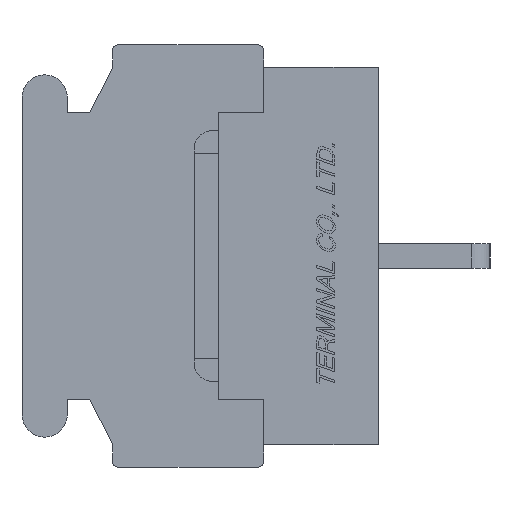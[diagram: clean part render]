
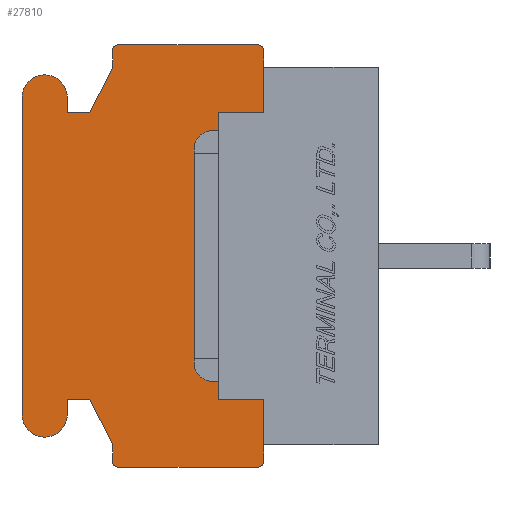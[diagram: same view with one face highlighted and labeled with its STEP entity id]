
A CAD part, left-side view. The second image highlights one B-rep face of the part: STEP entity #27810.
In plain terms, the highlighted planar face has unit normal (-1, 0, 0).
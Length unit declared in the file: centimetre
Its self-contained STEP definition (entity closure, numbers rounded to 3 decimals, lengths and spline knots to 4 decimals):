
#1024=PLANE('',#45333);
#2397=VECTOR('',#30034,1.);
#2792=VECTOR('',#30562,1.);
#2795=VECTOR('',#30566,1.);
#2797=VECTOR('',#30569,1.);
#2798=VECTOR('',#30571,1.);
#2799=VECTOR('',#30573,1.);
#2800=VECTOR('',#30576,1.);
#2801=VECTOR('',#30579,1.);
#2802=VECTOR('',#30580,1.);
#2803=VECTOR('',#30581,1.);
#2804=VECTOR('',#30582,1.);
#2805=VECTOR('',#30585,1.);
#2806=VECTOR('',#30588,1.);
#2807=VECTOR('',#30589,1.);
#2808=VECTOR('',#30590,1.);
#2809=VECTOR('',#30591,1.);
#2810=VECTOR('',#30594,1.);
#2811=VECTOR('',#30597,1.);
#5469=LINE('',#37160,#2397);
#5864=LINE('',#38645,#2792);
#5867=LINE('',#38651,#2795);
#5869=LINE('',#38655,#2797);
#5870=LINE('',#38657,#2798);
#5871=LINE('',#38659,#2799);
#5872=LINE('',#38663,#2800);
#5873=LINE('',#38667,#2801);
#5874=LINE('',#38669,#2802);
#5875=LINE('',#38671,#2803);
#5876=LINE('',#38673,#2804);
#5877=LINE('',#38677,#2805);
#5878=LINE('',#38681,#2806);
#5879=LINE('',#38683,#2807);
#5880=LINE('',#38685,#2808);
#5881=LINE('',#38687,#2809);
#5882=LINE('',#38691,#2810);
#5883=LINE('',#38695,#2811);
#8480=VERTEX_POINT('',#37159);
#8481=VERTEX_POINT('',#37161);
#8815=VERTEX_POINT('',#38644);
#8816=VERTEX_POINT('',#38646);
#8817=VERTEX_POINT('',#38650);
#8818=VERTEX_POINT('',#38652);
#8819=VERTEX_POINT('',#38660);
#8820=VERTEX_POINT('',#38662);
#8821=VERTEX_POINT('',#38664);
#8822=VERTEX_POINT('',#38666);
#8823=VERTEX_POINT('',#38668);
#8824=VERTEX_POINT('',#38670);
#8825=VERTEX_POINT('',#38672);
#8826=VERTEX_POINT('',#38674);
#8827=VERTEX_POINT('',#38676);
#8828=VERTEX_POINT('',#38678);
#8829=VERTEX_POINT('',#38680);
#8830=VERTEX_POINT('',#38682);
#8831=VERTEX_POINT('',#38684);
#8832=VERTEX_POINT('',#38686);
#8833=VERTEX_POINT('',#38688);
#8834=VERTEX_POINT('',#38690);
#8835=VERTEX_POINT('',#38692);
#8836=VERTEX_POINT('',#38694);
#10783=CIRCLE('',#45334,0.02);
#10784=CIRCLE('',#45335,0.02);
#10785=CIRCLE('',#45336,0.075);
#10786=CIRCLE('',#45337,0.075);
#10787=CIRCLE('',#45338,0.02);
#10788=CIRCLE('',#45339,0.02);
#12110=EDGE_CURVE('',#8481,#8480,#5469,.T.);
#12611=EDGE_CURVE('',#8816,#8815,#5864,.T.);
#12614=EDGE_CURVE('',#8818,#8817,#5867,.T.);
#12616=EDGE_CURVE('',#8817,#8481,#5869,.T.);
#12617=EDGE_CURVE('',#8480,#8816,#5870,.T.);
#12618=EDGE_CURVE('',#8819,#8815,#5871,.T.);
#12619=EDGE_CURVE('',#8820,#8819,#10783,.T.);
#12620=EDGE_CURVE('',#8821,#8820,#5872,.T.);
#12621=EDGE_CURVE('',#8822,#8821,#10784,.T.);
#12622=EDGE_CURVE('',#8823,#8822,#5873,.T.);
#12623=EDGE_CURVE('',#8824,#8823,#5874,.T.);
#12624=EDGE_CURVE('',#8825,#8824,#5875,.T.);
#12625=EDGE_CURVE('',#8826,#8825,#5876,.T.);
#12626=EDGE_CURVE('',#8827,#8826,#10785,.T.);
#12627=EDGE_CURVE('',#8828,#8827,#5877,.T.);
#12628=EDGE_CURVE('',#8829,#8828,#10786,.T.);
#12629=EDGE_CURVE('',#8830,#8829,#5878,.T.);
#12630=EDGE_CURVE('',#8831,#8830,#5879,.T.);
#12631=EDGE_CURVE('',#8832,#8831,#5880,.T.);
#12632=EDGE_CURVE('',#8833,#8832,#5881,.T.);
#12633=EDGE_CURVE('',#8834,#8833,#10787,.T.);
#12634=EDGE_CURVE('',#8835,#8834,#5882,.T.);
#12635=EDGE_CURVE('',#8836,#8835,#10788,.T.);
#12636=EDGE_CURVE('',#8818,#8836,#5883,.T.);
#18099=ORIENTED_EDGE('',*,*,#12614,.T.);
#18100=ORIENTED_EDGE('',*,*,#12616,.T.);
#18101=ORIENTED_EDGE('',*,*,#12110,.T.);
#18102=ORIENTED_EDGE('',*,*,#12617,.T.);
#18103=ORIENTED_EDGE('',*,*,#12611,.T.);
#18104=ORIENTED_EDGE('',*,*,#12618,.F.);
#18105=ORIENTED_EDGE('',*,*,#12619,.F.);
#18106=ORIENTED_EDGE('',*,*,#12620,.F.);
#18107=ORIENTED_EDGE('',*,*,#12621,.F.);
#18108=ORIENTED_EDGE('',*,*,#12622,.F.);
#18109=ORIENTED_EDGE('',*,*,#12623,.F.);
#18110=ORIENTED_EDGE('',*,*,#12624,.F.);
#18111=ORIENTED_EDGE('',*,*,#12625,.F.);
#18112=ORIENTED_EDGE('',*,*,#12626,.F.);
#18113=ORIENTED_EDGE('',*,*,#12627,.F.);
#18114=ORIENTED_EDGE('',*,*,#12628,.F.);
#18115=ORIENTED_EDGE('',*,*,#12629,.F.);
#18116=ORIENTED_EDGE('',*,*,#12630,.F.);
#18117=ORIENTED_EDGE('',*,*,#12631,.F.);
#18118=ORIENTED_EDGE('',*,*,#12632,.F.);
#18119=ORIENTED_EDGE('',*,*,#12633,.F.);
#18120=ORIENTED_EDGE('',*,*,#12634,.F.);
#18121=ORIENTED_EDGE('',*,*,#12635,.F.);
#18122=ORIENTED_EDGE('',*,*,#12636,.F.);
#24482=EDGE_LOOP('',(#18099,#18100,#18101,#18102,#18103,#18104,#18105,#18106,
#18107,#18108,#18109,#18110,#18111,#18112,#18113,#18114,#18115,#18116,#18117,
#18118,#18119,#18120,#18121,#18122));
#26172=FACE_BOUND('',#24482,.T.);
#27810=ADVANCED_FACE('',(#26172),#1024,.F.);
#30034=DIRECTION('',(0.,0.,1.));
#30562=DIRECTION('',(0.,0.,1.));
#30566=DIRECTION('',(0.,0.,1.));
#30569=DIRECTION('',(0.,1.,0.));
#30571=DIRECTION('',(0.,-1.,0.));
#30572=DIRECTION('',(1.,0.,0.));
#30573=DIRECTION('',(0.,0.,-1.));
#30574=DIRECTION('',(1.,0.,0.));
#30575=DIRECTION('',(0.,0.,-0.02));
#30576=DIRECTION('',(0.,-1.,0.));
#30577=DIRECTION('',(1.,0.,0.));
#30578=DIRECTION('',(0.,0.,-0.02));
#30579=DIRECTION('',(0.,0.,1.));
#30580=DIRECTION('',(0.,-0.447,0.894));
#30581=DIRECTION('',(0.,-1.,0.));
#30582=DIRECTION('',(0.,0.,-1.));
#30583=DIRECTION('',(1.,0.,0.));
#30584=DIRECTION('',(0.,0.,-0.075));
#30585=DIRECTION('',(0.,0.,1.));
#30586=DIRECTION('',(1.,0.,0.));
#30587=DIRECTION('',(0.,0.,-0.075));
#30588=DIRECTION('',(0.,0.,-1.));
#30589=DIRECTION('',(0.,1.,0.));
#30590=DIRECTION('',(0.,0.447,0.894));
#30591=DIRECTION('',(0.,0.,1.));
#30592=DIRECTION('',(1.,0.,0.));
#30593=DIRECTION('',(0.,0.,-0.02));
#30594=DIRECTION('',(0.,1.,0.));
#30595=DIRECTION('',(1.,0.,0.));
#30596=DIRECTION('',(0.,0.,-0.02));
#30597=DIRECTION('',(0.,0.,-1.));
#37159=CARTESIAN_POINT('',(-0.762,0.53,0.475));
#37160=CARTESIAN_POINT('',(-0.762,0.53,0.));
#37161=CARTESIAN_POINT('',(-0.762,0.53,-0.475));
#38644=CARTESIAN_POINT('',(-0.762,0.38,0.625));
#38645=CARTESIAN_POINT('',(-0.762,0.38,0.275));
#38646=CARTESIAN_POINT('',(-0.762,0.38,0.475));
#38650=CARTESIAN_POINT('',(-0.762,0.38,-0.475));
#38651=CARTESIAN_POINT('',(-0.762,0.38,-0.275));
#38652=CARTESIAN_POINT('',(-0.762,0.38,-0.625));
#38655=CARTESIAN_POINT('',(-0.762,0.5304,-0.475));
#38657=CARTESIAN_POINT('',(-0.762,0.5304,0.475));
#38658=CARTESIAN_POINT('',(-0.762,0.6059,0.));
#38659=CARTESIAN_POINT('',(-0.762,0.38,0.68));
#38660=CARTESIAN_POINT('',(-0.762,0.38,0.68));
#38661=CARTESIAN_POINT('',(-0.762,0.4,0.68));
#38662=CARTESIAN_POINT('',(-0.762,0.4,0.7));
#38663=CARTESIAN_POINT('',(-0.762,0.86,0.7));
#38664=CARTESIAN_POINT('',(-0.762,0.86,0.7));
#38665=CARTESIAN_POINT('',(-0.762,0.86,0.68));
#38666=CARTESIAN_POINT('',(-0.762,0.88,0.68));
#38667=CARTESIAN_POINT('',(-0.762,0.88,0.625));
#38668=CARTESIAN_POINT('',(-0.762,0.88,0.625));
#38669=CARTESIAN_POINT('',(-0.762,0.955,0.475));
#38670=CARTESIAN_POINT('',(-0.762,0.955,0.475));
#38671=CARTESIAN_POINT('',(-0.762,1.03,0.475));
#38672=CARTESIAN_POINT('',(-0.762,1.03,0.475));
#38673=CARTESIAN_POINT('',(-0.762,1.03,0.525));
#38674=CARTESIAN_POINT('',(-0.762,1.03,0.525));
#38675=CARTESIAN_POINT('',(-0.762,1.105,0.525));
#38676=CARTESIAN_POINT('',(-0.762,1.18,0.525));
#38677=CARTESIAN_POINT('',(-0.762,1.18,-0.525));
#38678=CARTESIAN_POINT('',(-0.762,1.18,-0.525));
#38679=CARTESIAN_POINT('',(-0.762,1.105,-0.525));
#38680=CARTESIAN_POINT('',(-0.762,1.03,-0.525));
#38681=CARTESIAN_POINT('',(-0.762,1.03,-0.475));
#38682=CARTESIAN_POINT('',(-0.762,1.03,-0.475));
#38683=CARTESIAN_POINT('',(-0.762,0.955,-0.475));
#38684=CARTESIAN_POINT('',(-0.762,0.955,-0.475));
#38685=CARTESIAN_POINT('',(-0.762,0.88,-0.625));
#38686=CARTESIAN_POINT('',(-0.762,0.88,-0.625));
#38687=CARTESIAN_POINT('',(-0.762,0.88,-0.68));
#38688=CARTESIAN_POINT('',(-0.762,0.88,-0.68));
#38689=CARTESIAN_POINT('',(-0.762,0.86,-0.68));
#38690=CARTESIAN_POINT('',(-0.762,0.86,-0.7));
#38691=CARTESIAN_POINT('',(-0.762,0.4,-0.7));
#38692=CARTESIAN_POINT('',(-0.762,0.4,-0.7));
#38693=CARTESIAN_POINT('',(-0.762,0.4,-0.68));
#38694=CARTESIAN_POINT('',(-0.762,0.38,-0.68));
#38695=CARTESIAN_POINT('',(-0.762,0.38,-0.625));
#45333=AXIS2_PLACEMENT_3D('',#38658,#30572,$);
#45334=AXIS2_PLACEMENT_3D('',#38661,#30574,#30575);
#45335=AXIS2_PLACEMENT_3D('',#38665,#30577,#30578);
#45336=AXIS2_PLACEMENT_3D('',#38675,#30583,#30584);
#45337=AXIS2_PLACEMENT_3D('',#38679,#30586,#30587);
#45338=AXIS2_PLACEMENT_3D('',#38689,#30592,#30593);
#45339=AXIS2_PLACEMENT_3D('',#38693,#30595,#30596);
